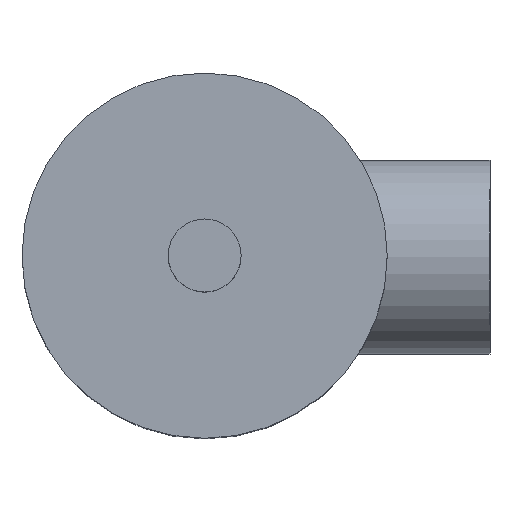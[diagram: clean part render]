
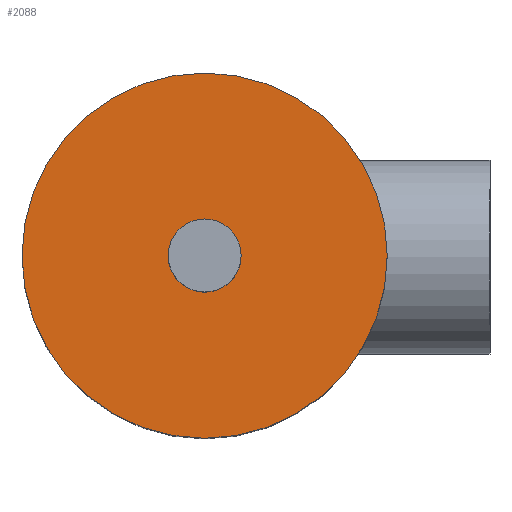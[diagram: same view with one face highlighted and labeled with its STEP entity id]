
A CAD part, top view. The second image highlights one B-rep face of the part: STEP entity #2088.
In plain terms, the highlighted planar face has unit normal (0, 0, 1).
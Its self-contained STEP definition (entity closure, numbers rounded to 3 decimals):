
#2004 = CYLINDRICAL_SURFACE('',#2005,80.);
#2005 = AXIS2_PLACEMENT_3D('',#2006,#2007,#2008);
#2006 = CARTESIAN_POINT('',(0.,0.,209.5));
#2007 = DIRECTION('',(0.,0.,1.));
#2008 = DIRECTION('',(1.,0.,0.));
#2037 = EDGE_CURVE('',#2038,#2038,#2040,.T.);
#2038 = VERTEX_POINT('',#2039);
#2039 = CARTESIAN_POINT('',(80.,0.,377.1));
#2040 = SURFACE_CURVE('',#2041,(#2046,#2053),.PCURVE_S1.);
#2041 = CIRCLE('',#2042,80.);
#2042 = AXIS2_PLACEMENT_3D('',#2043,#2044,#2045);
#2043 = CARTESIAN_POINT('',(0.,0.,377.1));
#2044 = DIRECTION('',(0.,0.,1.));
#2045 = DIRECTION('',(1.,0.,0.));
#2046 = PCURVE('',#2004,#2047);
#2047 = DEFINITIONAL_REPRESENTATION('',(#2048),#2052);
#2048 = LINE('',#2049,#2050);
#2049 = CARTESIAN_POINT('',(0.,167.6));
#2050 = VECTOR('',#2051,1.);
#2051 = DIRECTION('',(1.,0.));
#2052 = ( GEOMETRIC_REPRESENTATION_CONTEXT(2) 
PARAMETRIC_REPRESENTATION_CONTEXT() REPRESENTATION_CONTEXT('2D SPACE',''
  ) );
#2053 = PCURVE('',#2054,#2059);
#2054 = PLANE('',#2055);
#2055 = AXIS2_PLACEMENT_3D('',#2056,#2057,#2058);
#2056 = CARTESIAN_POINT('',(0.,0.,377.1));
#2057 = DIRECTION('',(0.,0.,1.));
#2058 = DIRECTION('',(1.,0.,0.));
#2059 = DEFINITIONAL_REPRESENTATION('',(#2060),#2064);
#2060 = CIRCLE('',#2061,80.);
#2061 = AXIS2_PLACEMENT_2D('',#2062,#2063);
#2062 = CARTESIAN_POINT('',(0.,0.));
#2063 = DIRECTION('',(1.,0.));
#2064 = ( GEOMETRIC_REPRESENTATION_CONTEXT(2) 
PARAMETRIC_REPRESENTATION_CONTEXT() REPRESENTATION_CONTEXT('2D SPACE',''
  ) );
#2088 = ADVANCED_FACE('',(#2089,#2092),#2054,.T.);
#2089 = FACE_BOUND('',#2090,.T.);
#2090 = EDGE_LOOP('',(#2091));
#2091 = ORIENTED_EDGE('',*,*,#2037,.T.);
#2092 = FACE_BOUND('',#2093,.T.);
#2093 = EDGE_LOOP('',(#2094));
#2094 = ORIENTED_EDGE('',*,*,#2095,.F.);
#2095 = EDGE_CURVE('',#2096,#2096,#2098,.T.);
#2096 = VERTEX_POINT('',#2097);
#2097 = CARTESIAN_POINT('',(16.,0.,377.1));
#2098 = SURFACE_CURVE('',#2099,(#2104,#2111),.PCURVE_S1.);
#2099 = CIRCLE('',#2100,16.);
#2100 = AXIS2_PLACEMENT_3D('',#2101,#2102,#2103);
#2101 = CARTESIAN_POINT('',(0.,0.,377.1));
#2102 = DIRECTION('',(0.,0.,1.));
#2103 = DIRECTION('',(1.,0.,-0.));
#2104 = PCURVE('',#2054,#2105);
#2105 = DEFINITIONAL_REPRESENTATION('',(#2106),#2110);
#2106 = CIRCLE('',#2107,16.);
#2107 = AXIS2_PLACEMENT_2D('',#2108,#2109);
#2108 = CARTESIAN_POINT('',(0.,0.));
#2109 = DIRECTION('',(1.,0.));
#2110 = ( GEOMETRIC_REPRESENTATION_CONTEXT(2) 
PARAMETRIC_REPRESENTATION_CONTEXT() REPRESENTATION_CONTEXT('2D SPACE',''
  ) );
#2111 = PCURVE('',#2112,#2117);
#2112 = CYLINDRICAL_SURFACE('',#2113,16.);
#2113 = AXIS2_PLACEMENT_3D('',#2114,#2115,#2116);
#2114 = CARTESIAN_POINT('',(0.,0.,72.));
#2115 = DIRECTION('',(0.,0.,1.));
#2116 = DIRECTION('',(1.,0.,0.));
#2117 = DEFINITIONAL_REPRESENTATION('',(#2118),#2122);
#2118 = LINE('',#2119,#2120);
#2119 = CARTESIAN_POINT('',(0.,305.1));
#2120 = VECTOR('',#2121,1.);
#2121 = DIRECTION('',(1.,0.));
#2122 = ( GEOMETRIC_REPRESENTATION_CONTEXT(2) 
PARAMETRIC_REPRESENTATION_CONTEXT() REPRESENTATION_CONTEXT('2D SPACE',''
  ) );
